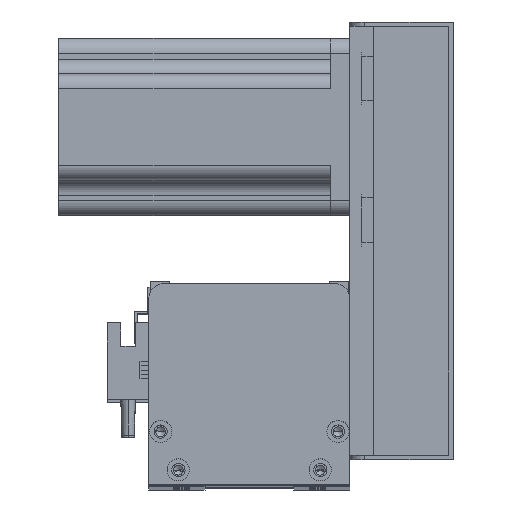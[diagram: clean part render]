
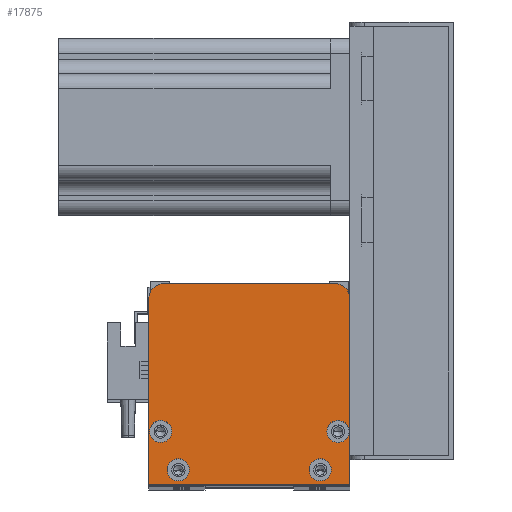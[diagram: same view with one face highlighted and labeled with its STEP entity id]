
A CAD part, top view. The second image highlights one B-rep face of the part: STEP entity #17875.
In plain terms, the highlighted planar face has unit normal (0, 0, 1).
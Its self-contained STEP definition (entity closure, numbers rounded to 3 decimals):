
#24 = AXIS2_PLACEMENT_3D ( 'NONE', #14733, #1562, #18982 ) ;
#25 = ORIENTED_EDGE ( 'NONE', *, *, #2340, .T. ) ;
#34 = VERTEX_POINT ( 'NONE', #4103 ) ;
#66 = AXIS2_PLACEMENT_3D ( 'NONE', #25227, #23273, #18796 ) ;
#530 = ORIENTED_EDGE ( 'NONE', *, *, #14769, .F. ) ;
#1177 = EDGE_CURVE ( 'NONE', #23836, #6498, #21298, .T. ) ;
#1204 = DIRECTION ( 'NONE',  ( 0., 0., 1. ) ) ;
#1413 = DIRECTION ( 'NONE',  ( 1., 0., 0. ) ) ;
#1521 = AXIS2_PLACEMENT_3D ( 'NONE', #3357, #1204, #3742 ) ;
#1549 = CIRCLE ( 'NONE', #27894, 5. ) ;
#1562 = DIRECTION ( 'NONE',  ( 0., 0., 1. ) ) ;
#1569 = VERTEX_POINT ( 'NONE', #20708 ) ;
#1599 = EDGE_LOOP ( 'NONE', ( #12396, #5741 ) ) ;
#1784 = CIRCLE ( 'NONE', #17352, 3.75 ) ;
#2009 = EDGE_CURVE ( 'NONE', #13861, #21436, #1549, .T. ) ;
#2340 = EDGE_CURVE ( 'NONE', #34, #4491, #25020, .T. ) ;
#2639 = AXIS2_PLACEMENT_3D ( 'NONE', #27819, #28202, #12465 ) ;
#3348 = FACE_BOUND ( 'NONE', #20809, .T. ) ;
#3357 = CARTESIAN_POINT ( 'NONE',  ( 58., 5., 64. ) ) ;
#3456 = DIRECTION ( 'NONE',  ( 0., 0., 1. ) ) ;
#3515 = CIRCLE ( 'NONE', #66, 3.75 ) ;
#3742 = DIRECTION ( 'NONE',  ( 1., 0., 0. ) ) ;
#3769 = DIRECTION ( 'NONE',  ( 0., 0., 1. ) ) ;
#4103 = CARTESIAN_POINT ( 'NONE',  ( 68., 0., 64. ) ) ;
#4174 = EDGE_CURVE ( 'NONE', #6498, #23836, #26713, .T. ) ;
#4200 = ORIENTED_EDGE ( 'NONE', *, *, #7361, .T. ) ;
#4304 = CARTESIAN_POINT ( 'NONE',  ( 58., 5., 64. ) ) ;
#4327 = ORIENTED_EDGE ( 'NONE', *, *, #1177, .F. ) ;
#4491 = VERTEX_POINT ( 'NONE', #20136 ) ;
#4608 = CARTESIAN_POINT ( 'NONE',  ( 4., 18., 64. ) ) ;
#5146 = CARTESIAN_POINT ( 'NONE',  ( 68., 68., 64. ) ) ;
#5667 = CARTESIAN_POINT ( 'NONE',  ( 67.75, 18., 64. ) ) ;
#5741 = ORIENTED_EDGE ( 'NONE', *, *, #12578, .F. ) ;
#6106 = DIRECTION ( 'NONE',  ( 0., -1., 0. ) ) ;
#6122 = FACE_BOUND ( 'NONE', #24426, .T. ) ;
#6498 = VERTEX_POINT ( 'NONE', #19463 ) ;
#7361 = EDGE_CURVE ( 'NONE', #17851, #34, #18116, .T. ) ;
#7744 = AXIS2_PLACEMENT_3D ( 'NONE', #24029, #3769, #12154 ) ;
#8742 = DIRECTION ( 'NONE',  ( 0., 1., 0. ) ) ;
#9126 = DIRECTION ( 'NONE',  ( 1., 0., 0. ) ) ;
#9605 = CARTESIAN_POINT ( 'NONE',  ( 64., 18., 64. ) ) ;
#9714 = VERTEX_POINT ( 'NONE', #20473 ) ;
#10262 = CIRCLE ( 'NONE', #1521, 3.75 ) ;
#10644 = EDGE_CURVE ( 'NONE', #1569, #9714, #26720, .T. ) ;
#10942 = ORIENTED_EDGE ( 'NONE', *, *, #17720, .T. ) ;
#11156 = VERTEX_POINT ( 'NONE', #25465 ) ;
#12144 = DIRECTION ( 'NONE',  ( 1., 0., 0. ) ) ;
#12154 = DIRECTION ( 'NONE',  ( 1., 0., 0. ) ) ;
#12187 = CARTESIAN_POINT ( 'NONE',  ( 0., 63., 64. ) ) ;
#12396 = ORIENTED_EDGE ( 'NONE', *, *, #10644, .F. ) ;
#12464 = ORIENTED_EDGE ( 'NONE', *, *, #15093, .T. ) ;
#12465 = DIRECTION ( 'NONE',  ( 1., 0., 0. ) ) ;
#12578 = EDGE_CURVE ( 'NONE', #9714, #1569, #17512, .T. ) ;
#12611 = VECTOR ( 'NONE', #18321, 1000. ) ;
#12618 = ORIENTED_EDGE ( 'NONE', *, *, #20702, .F. ) ;
#12739 = CARTESIAN_POINT ( 'NONE',  ( 10., 5., 64. ) ) ;
#12833 = CIRCLE ( 'NONE', #24, 5. ) ;
#13115 = DIRECTION ( 'NONE',  ( 0., 0., 1. ) ) ;
#13340 = AXIS2_PLACEMENT_3D ( 'NONE', #4304, #26396, #17657 ) ;
#13497 = VERTEX_POINT ( 'NONE', #23426 ) ;
#13861 = VERTEX_POINT ( 'NONE', #27999 ) ;
#14009 = LINE ( 'NONE', #5146, #12611 ) ;
#14733 = CARTESIAN_POINT ( 'NONE',  ( 63., 63., 64. ) ) ;
#14769 = EDGE_CURVE ( 'NONE', #20749, #15743, #19005, .T. ) ;
#14974 = VECTOR ( 'NONE', #12144, 1000. ) ;
#15093 = EDGE_CURVE ( 'NONE', #21436, #17851, #20690, .T. ) ;
#15743 = VERTEX_POINT ( 'NONE', #27087 ) ;
#15933 = DIRECTION ( 'NONE',  ( 0., 0., 1. ) ) ;
#17247 = CARTESIAN_POINT ( 'NONE',  ( 0., 0., 64. ) ) ;
#17352 = AXIS2_PLACEMENT_3D ( 'NONE', #9605, #20508, #25040 ) ;
#17512 = CIRCLE ( 'NONE', #7744, 3.75 ) ;
#17657 = DIRECTION ( 'NONE',  ( 1., 0., 0. ) ) ;
#17690 = CARTESIAN_POINT ( 'NONE',  ( 13.75, 5., 64. ) ) ;
#17720 = EDGE_CURVE ( 'NONE', #4491, #11156, #12833, .T. ) ;
#17851 = VERTEX_POINT ( 'NONE', #17247 ) ;
#17875 = ADVANCED_FACE ( 'NONE', ( #6122, #28566, #20967, #3348, #22360 ), #21449, .T. ) ;
#18116 = LINE ( 'NONE', #20939, #14974 ) ;
#18179 = EDGE_CURVE ( 'NONE', #15743, #20749, #10262, .T. ) ;
#18321 = DIRECTION ( 'NONE',  ( -1., 0., 0. ) ) ;
#18529 = AXIS2_PLACEMENT_3D ( 'NONE', #23319, #21115, #1413 ) ;
#18653 = VECTOR ( 'NONE', #6106, 1000. ) ;
#18746 = CARTESIAN_POINT ( 'NONE',  ( 5., 63., 64. ) ) ;
#18796 = DIRECTION ( 'NONE',  ( 1., 0., 0. ) ) ;
#18982 = DIRECTION ( 'NONE',  ( 1., 0., 0. ) ) ;
#19005 = CIRCLE ( 'NONE', #13340, 3.75 ) ;
#19179 = VECTOR ( 'NONE', #8742, 1000. ) ;
#19189 = EDGE_CURVE ( 'NONE', #11156, #13861, #14009, .T. ) ;
#19463 = CARTESIAN_POINT ( 'NONE',  ( 6.25, 5., 64. ) ) ;
#19774 = EDGE_LOOP ( 'NONE', ( #23280, #23153, #12464, #4200, #25, #10942 ) ) ;
#20136 = CARTESIAN_POINT ( 'NONE',  ( 68., 63., 64. ) ) ;
#20473 = CARTESIAN_POINT ( 'NONE',  ( 0.25, 18., 64. ) ) ;
#20508 = DIRECTION ( 'NONE',  ( 0., 0., 1. ) ) ;
#20581 = ORIENTED_EDGE ( 'NONE', *, *, #18179, .F. ) ;
#20690 = LINE ( 'NONE', #28025, #18653 ) ;
#20702 = EDGE_CURVE ( 'NONE', #13497, #23151, #1784, .T. ) ;
#20708 = CARTESIAN_POINT ( 'NONE',  ( 7.75, 18., 64. ) ) ;
#20735 = EDGE_CURVE ( 'NONE', #23151, #13497, #3515, .T. ) ;
#20749 = VERTEX_POINT ( 'NONE', #20880 ) ;
#20809 = EDGE_LOOP ( 'NONE', ( #20581, #530 ) ) ;
#20880 = CARTESIAN_POINT ( 'NONE',  ( 54.25, 5., 64. ) ) ;
#20939 = CARTESIAN_POINT ( 'NONE',  ( 68., 0., 64. ) ) ;
#20967 = FACE_BOUND ( 'NONE', #25598, .T. ) ;
#21115 = DIRECTION ( 'NONE',  ( 0., 0., 1. ) ) ;
#21298 = CIRCLE ( 'NONE', #28223, 3.75 ) ;
#21412 = ORIENTED_EDGE ( 'NONE', *, *, #20735, .F. ) ;
#21436 = VERTEX_POINT ( 'NONE', #12187 ) ;
#21449 = PLANE ( 'NONE',  #2639 ) ;
#22360 = FACE_OUTER_BOUND ( 'NONE', #19774, .T. ) ;
#23123 = DIRECTION ( 'NONE',  ( 1., 0., 0. ) ) ;
#23151 = VERTEX_POINT ( 'NONE', #5667 ) ;
#23153 = ORIENTED_EDGE ( 'NONE', *, *, #2009, .T. ) ;
#23273 = DIRECTION ( 'NONE',  ( 0., 0., 1. ) ) ;
#23280 = ORIENTED_EDGE ( 'NONE', *, *, #19189, .T. ) ;
#23319 = CARTESIAN_POINT ( 'NONE',  ( 10., 5., 64. ) ) ;
#23426 = CARTESIAN_POINT ( 'NONE',  ( 60.25, 18., 64. ) ) ;
#23824 = DIRECTION ( 'NONE',  ( 1., 0., 0. ) ) ;
#23836 = VERTEX_POINT ( 'NONE', #17690 ) ;
#24029 = CARTESIAN_POINT ( 'NONE',  ( 4., 18., 64. ) ) ;
#24153 = AXIS2_PLACEMENT_3D ( 'NONE', #4608, #15933, #9126 ) ;
#24426 = EDGE_LOOP ( 'NONE', ( #21412, #12618 ) ) ;
#25020 = LINE ( 'NONE', #28550, #19179 ) ;
#25040 = DIRECTION ( 'NONE',  ( 1., 0., 0. ) ) ;
#25227 = CARTESIAN_POINT ( 'NONE',  ( 64., 18., 64. ) ) ;
#25465 = CARTESIAN_POINT ( 'NONE',  ( 63., 68., 64. ) ) ;
#25598 = EDGE_LOOP ( 'NONE', ( #4327, #28179 ) ) ;
#26396 = DIRECTION ( 'NONE',  ( 0., 0., 1. ) ) ;
#26713 = CIRCLE ( 'NONE', #18529, 3.75 ) ;
#26720 = CIRCLE ( 'NONE', #24153, 3.75 ) ;
#27087 = CARTESIAN_POINT ( 'NONE',  ( 61.75, 5., 64. ) ) ;
#27819 = CARTESIAN_POINT ( 'NONE',  ( 0., 0., 64. ) ) ;
#27894 = AXIS2_PLACEMENT_3D ( 'NONE', #18746, #3456, #23123 ) ;
#27999 = CARTESIAN_POINT ( 'NONE',  ( 5., 68., 64. ) ) ;
#28025 = CARTESIAN_POINT ( 'NONE',  ( 0., 0., 64. ) ) ;
#28179 = ORIENTED_EDGE ( 'NONE', *, *, #4174, .F. ) ;
#28202 = DIRECTION ( 'NONE',  ( 0., 0., 1. ) ) ;
#28223 = AXIS2_PLACEMENT_3D ( 'NONE', #12739, #13115, #23824 ) ;
#28550 = CARTESIAN_POINT ( 'NONE',  ( 68., 0., 64. ) ) ;
#28566 = FACE_BOUND ( 'NONE', #1599, .T. ) ;
